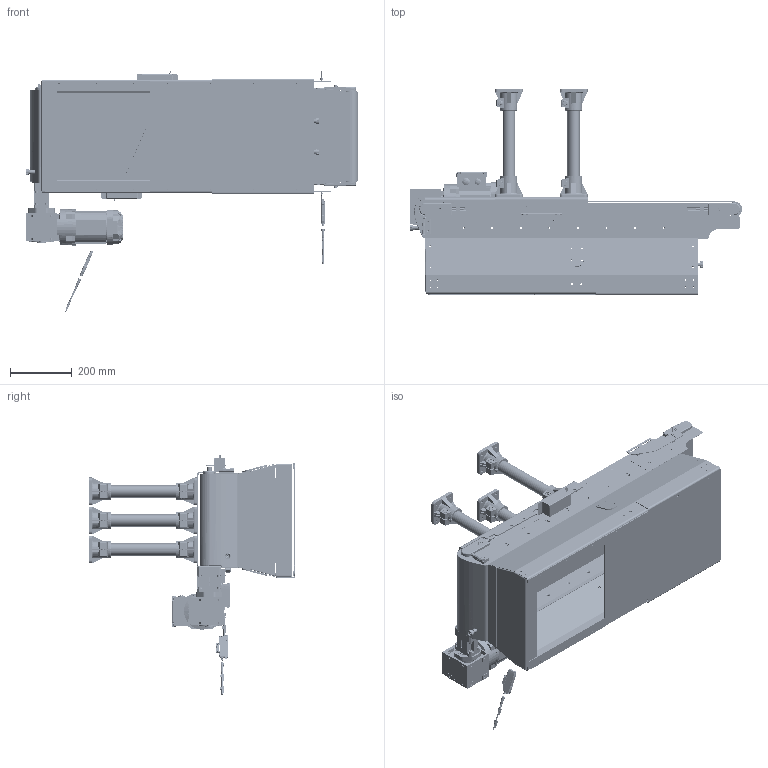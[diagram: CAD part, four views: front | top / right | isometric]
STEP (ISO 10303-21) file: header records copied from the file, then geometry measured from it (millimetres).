
FILE_DESCRIPTION (( 'STEP AP214' ), '1' );
FILE_NAME ('GM000853.STEP', '2023-09-26T08:20:20', ( '' ), ( '' ), 'SwSTEP 2.0', 'SolidWorks 2022', '' );
FILE_SCHEMA (( 'AUTOMOTIVE_DESIGN' ));
Length unit declared in the file: millimetre
Products named in the file (158): CM000250; ZKS NIKO M6X12-6^Rinvio_1200095(2)_CM001187; bearing^101235_Rinvio_1200095(2)_CM001187; ZKS M6X25-42^Azionamento_1200095(2)_CM001187; 101322-25^Azionamento_1200095(2)_CM001187; CM001389; NULL^Baugruppe1_DRN63M4_Drive_Azionamento_1200095(2)_CM001187; PD003802; PD006159; PD003402; PD003401; PD006155; PIL4040SNN940^Telaio_1200095(2)_CM001187; PD006154; BLS M6-32^Azionamento_1200095(2)_CM001187; 298310^Azionamento_1200095(2)_CM001187; 101902^Azionamento_1200095(2)_CM001187; Slider Bed^Lamiera di scorrimento_1200095(2)_CM001187; BLS M6-40^Azionamento_1200095(2)_CM001187; Umlenkachse^101235_Rinvio_1200095(2)_CM001187; PIL4040SNN940-10^Telaio_1200095(2)_CM001187; NULL-18^Baugruppe1_DRN63M4_Drive_Azionamento_1200095(2)_CM001187; PD004425; FAS4041-12^Telaio_1200095(2)_CM001187; NULL-20^Baugruppe1_DRN63M4_Drive_Azionamento_1200095(2)_CM001187; SIR014X1.0^101235_Rinvio_1200095(2)_CM001187; TIN6008-31^Azionamento_1200095(2)_CM001187; Copia di Hinges CFM-L-B.50-63-SH-6-2.stp^CM001369; Copia di FU-7F_T^CE000512; Copia di Hinges CFM-L-B.50-63-SH-6-1.stp^CM001369; TIN6008^Rinvio_1200095(2)_CM001187; ZKS M6X18-49^Azionamento_1200095(2)_CM001187; PD006168; 101353-1^Rinvio_1200095(2)_CM001187; TIN4501^Rinvio_1200095(2)_CM001187; 101532^Azionamento_1200095(2)_CM001187; CM000170; Copia di FS-N41C^CE000511_ﾃﾞﾌｫﾙﾄ; PD002342; PD003404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
Assembly tree (193 placements, depth 8):
  GM000853
    CM000058  x4
    CM000170  x2
    PD003398
    PD003394
    PD003399
    PD006168
    PD002343  x2
    PD002342  x2
    PD003401
    CM000250  x3
    CM000432  x6
    PD003403
    PD003404
    PD006153
    PD003060  x2
    PD003408  x2
    PD003376  x4
    PD003419
    PD003664
    PD003665
    CM000306
      CM000306_001
      CM000306_002
      CM000306_003
    PD006154
    PD003663
    PD003402
    PD003802
    PD003801
    PD003654  x4
    PD003653  x2
    CE000511_ﾃﾞﾌｫﾙﾄ  x2
      Copia di FS-N41C^CE000511_ﾃﾞﾌｫﾙﾄ
      Copia di OP-88245^CE000511_ﾃﾞﾌｫﾙﾄ
    CM001187
      1200095(2)^CM001187
        Rinvio^1200095(2)_CM001187
          101235^Rinvio_1200095(2)_CM001187
            Umlenkachse^101235_Rinvio_1200095(2)_CM001187
            101235 Länge 0300^101235_Rinvio_1200095(2)_CM001187
            bearing^101235_Rinvio_1200095(2)_CM001187
            bearing-0^101235_Rinvio_1200095(2)_CM001187
            SIR014X1.0^101235_Rinvio_1200095(2)_CM001187
            eBom-prt5^101235_Rinvio_1200095(2)_CM001187
          101353^Rinvio_1200095(2)_CM001187
          101353-1^Rinvio_1200095(2)_CM001187
          101322^Rinvio_1200095(2)_CM001187
          101322-2^Rinvio_1200095(2)_CM001187
          ZKS NIKO M8X16^Rinvio_1200095(2)_CM001187
          TIN6008^Rinvio_1200095(2)_CM001187
          ZKS NIKO M8X16-3^Rinvio_1200095(2)_CM001187
          TIN6008-4^Rinvio_1200095(2)_CM001187
          ZKS NIKO M6X12^Rinvio_1200095(2)_CM001187
          BLS M6^Rinvio_1200095(2)_CM001187
          101539^Rinvio_1200095(2)_CM001187
          101539-5^Rinvio_1200095(2)_CM001187
          ZKS NIKO M6X12-6^Rinvio_1200095(2)_CM001187
          BLS M6-7^Rinvio_1200095(2)_CM001187
          TIN4501^Rinvio_1200095(2)_CM001187
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Bounding box: 1075.1 x 666.12 x 783.01 mm (x, y, z)
Volume: 16355136.4 mm3; surface area: 8320615.3 mm2
Topology: 225 solids, 225 shells, 10411 faces, 27502 edges, 17854 vertices
Faces by surface type: plane 4918, cylinder 3751, bspline 691, cone 616, torus 367, sphere 68
Entity records: 248837 total; most frequent: CARTESIAN_POINT 66040, ORIENTED_EDGE 35970, DIRECTION 34485, EDGE_CURVE 17985, AXIS2_PLACEMENT_3D 12091, VERTEX_POINT 11692, LINE 10303, VECTOR 10303
